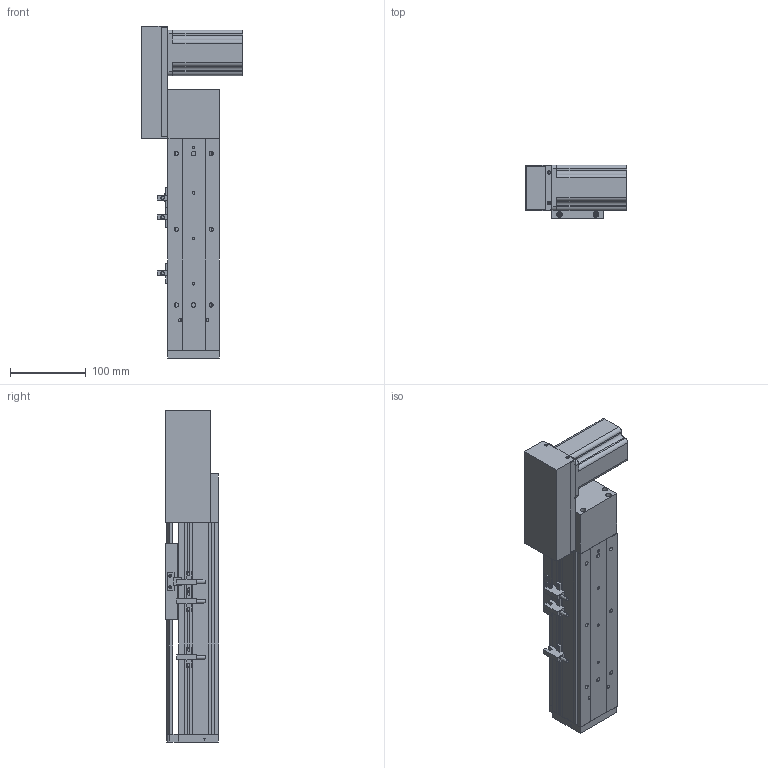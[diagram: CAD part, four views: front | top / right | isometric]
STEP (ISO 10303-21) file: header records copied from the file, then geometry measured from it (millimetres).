
FILE_DESCRIPTION (( 'STEP AP203' ), '1' );
FILE_NAME ('ML68-S100-CR.STEP', '2016-08-04T10:53:00', ( '' ), ( '' ), 'SwSTEP 2.0', 'SolidWorks 2014', '' );
FILE_SCHEMA (( 'CONFIG_CONTROL_DESIGN' ));
Length unit declared in the file: millimetre
Products named in the file (11): QS68酘衵殏萇儂啣; 60換覜結え; ML68傷啣; QS68左右折电机板罩子; 三协电机MH201N2_預設; ML68雄赽釱; ML68-S100-CR; 換覜ん; ML68-S100奻裔; ML68-S100菁釱; ML68-BL傷啣
Assembly tree (12 placements, depth 2):
  ML68-S100-CR
    ML68-BL傷啣
    60換覜結え
    ML68-S100菁釱
    ML68傷啣
    換覜ん  x3
    三协电机MH201N2_預設
    ML68-S100奻裔
    ML68雄赽釱
    QS68酘衵殏萇儂啣
    QS68左右折电机板罩子
Bounding box: 133.5 x 70.5 x 438.5 mm (x, y, z)
Volume: 1087677.6 mm3; surface area: 342011.9 mm2
Topology: 12 solids, 12 shells, 809 faces, 2218 edges, 1407 vertices
Faces by surface type: cylinder 366, plane 345, cone 92, bspline 6
Entity records: 25425 total; most frequent: CARTESIAN_POINT 4829, DIRECTION 4164, ORIENTED_EDGE 3944, EDGE_CURVE 1972, AXIS2_PLACEMENT_3D 1498, VERTEX_POINT 1295, LINE 1168, VECTOR 1168
